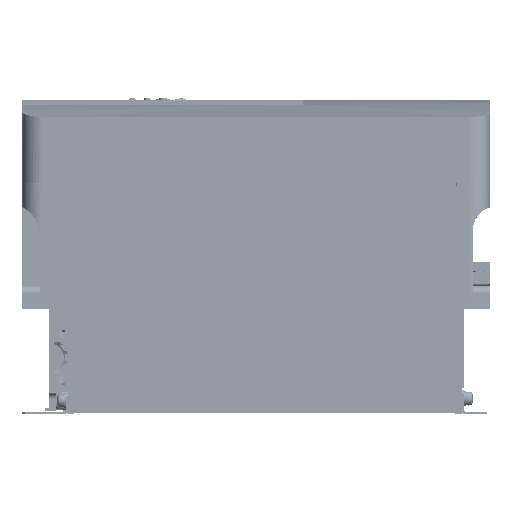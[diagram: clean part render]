
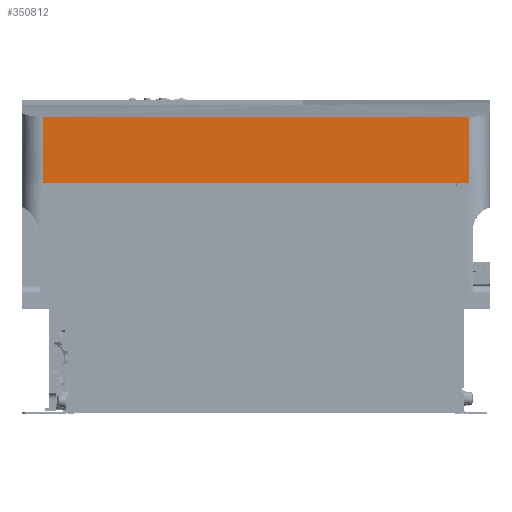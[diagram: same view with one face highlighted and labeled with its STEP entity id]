
A CAD part, left-side view. The second image highlights one B-rep face of the part: STEP entity #350812.
In plain terms, the highlighted planar face has unit normal (-1, 0, 0).
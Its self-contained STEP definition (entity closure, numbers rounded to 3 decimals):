
#343994=DIRECTION('',(0.,0.,-1.));
#343995=VECTOR('',#343994,42.575);
#343996=CARTESIAN_POINT('',(-90.,-136.5,-10.725));
#343997=LINE('',#343996,#343995);
#343998=DIRECTION('',(0.,1.,0.));
#343999=VECTOR('',#343998,273.);
#344000=CARTESIAN_POINT('',(-90.,-136.5,-53.3));
#344001=LINE('',#344000,#343999);
#344002=DIRECTION('',(0.,0.,-1.));
#344003=VECTOR('',#344002,42.575);
#344004=CARTESIAN_POINT('',(-90.,136.5,-10.725));
#344005=LINE('',#344004,#344003);
#348339=DIRECTION('',(0.,1.,0.));
#348340=VECTOR('',#348339,273.);
#348341=CARTESIAN_POINT('',(-90.,-136.5,-10.725));
#348342=LINE('',#348341,#348340);
#349108=CARTESIAN_POINT('',(-90.,136.5,-53.3));
#349110=VERTEX_POINT('',#349108);
#349111=CARTESIAN_POINT('',(-90.,-136.5,-53.3));
#349113=VERTEX_POINT('',#349111);
#349155=CARTESIAN_POINT('',(-90.,-136.5,-10.725));
#349156=VERTEX_POINT('',#349155);
#349159=CARTESIAN_POINT('',(-90.,136.5,-10.725));
#349160=VERTEX_POINT('',#349159);
#350799=CARTESIAN_POINT('',(-90.,0.,-32.012));
#350800=DIRECTION('',(1.,0.,0.));
#350801=DIRECTION('',(0.,-1.,0.));
#350802=AXIS2_PLACEMENT_3D('',#350799,#350800,#350801);
#350803=PLANE('',#350802);
#350805=ORIENTED_EDGE('',*,*,#350804,.F.);
#350807=ORIENTED_EDGE('',*,*,#350806,.F.);
#350808=ORIENTED_EDGE('',*,*,#350791,.T.);
#350809=ORIENTED_EDGE('',*,*,#350684,.T.);
#350810=EDGE_LOOP('',(#350805,#350807,#350808,#350809));
#350811=FACE_OUTER_BOUND('',#350810,.F.);
#350812=ADVANCED_FACE('',(#350811),#350803,.F.);
#350684=EDGE_CURVE('',#349113,#349110,#344001,.T.);
#350791=EDGE_CURVE('',#349156,#349113,#343997,.T.);
#350804=EDGE_CURVE('',#349160,#349110,#344005,.T.);
#350806=EDGE_CURVE('',#349156,#349160,#348342,.T.);
